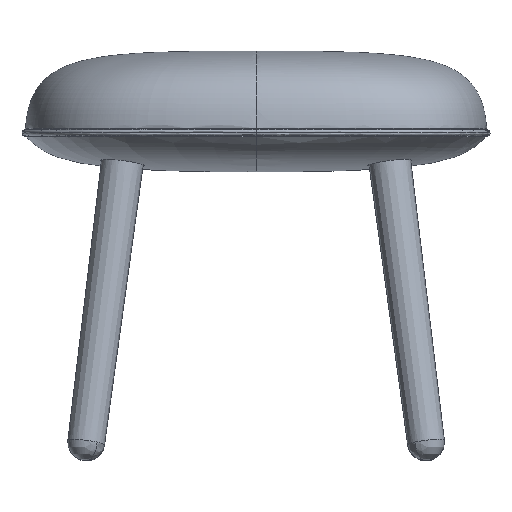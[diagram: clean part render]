
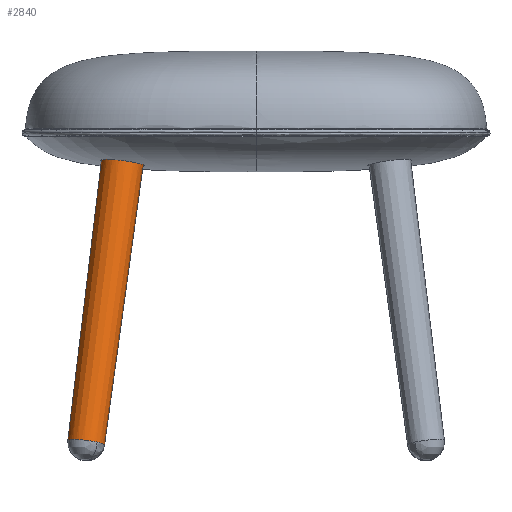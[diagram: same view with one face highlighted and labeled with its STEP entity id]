
A CAD part, top view. The second image highlights one B-rep face of the part: STEP entity #2840.
In plain terms, the highlighted conical face has half-angle 0.5 degrees and reference radius 20.031 mm.
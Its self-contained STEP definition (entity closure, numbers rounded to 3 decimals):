
#450 = CARTESIAN_POINT ( 'NONE',  ( -146.244, 15.943, 200.067 ) ) ;
#627 = CARTESIAN_POINT ( 'NONE',  ( -146.895, 16.167, 201.219 ) ) ;
#1484 = CARTESIAN_POINT ( 'NONE',  ( -168.431, 19.684, 208.014 ) ) ;
#1574 = CARTESIAN_POINT ( 'NONE',  ( -151.717, 17.394, 206.283 ) ) ;
#1666 = CARTESIAN_POINT ( 'NONE',  ( -162.637, 19.126, 209.313 ) ) ;
#1715 = EDGE_CURVE ( 'NONE', #11498, #9452, #17852, .T. ) ;
#2461 = CARTESIAN_POINT ( 'NONE',  ( -146.369, 15.988, 200.302 ) ) ;
#2840 = ADVANCED_FACE ( 'NONE', ( #8111 ), #13983, .T. ) ;
#3503 = CARTESIAN_POINT ( 'NONE',  ( -179.314, 19.231, 193.489 ) ) ;
#3595 = CARTESIAN_POINT ( 'NONE',  ( -160.75, 18.893, 209.323 ) ) ;
#3656 = CARTESIAN_POINT ( 'NONE',  ( -127.189, 285.289, 157.189 ) ) ;
#3684 = CARTESIAN_POINT ( 'NONE',  ( -170.095, 19.782, 207.14 ) ) ;
#3773 = CARTESIAN_POINT ( 'NONE',  ( -160.58, 18.87, 209.314 ) ) ;
#4030 = EDGE_CURVE ( 'NONE', #5973, #8949, #18326, .T. ) ;
#4629 = ORIENTED_EDGE ( 'NONE', *, *, #5787, .T. ) ;
#4742 = CARTESIAN_POINT ( 'NONE',  ( -147.083, 16.227, 201.517 ) ) ;
#5518 = DIRECTION ( 'NONE',  ( 0.136, 0.983, -0.127 ) ) ;
#5648 = CARTESIAN_POINT ( 'NONE',  ( -151.717, 17.394, 206.283 ) ) ;
#5696 = ORIENTED_EDGE ( 'NONE', *, *, #11314, .T. ) ;
#5767 = CARTESIAN_POINT ( 'NONE',  ( -157.852, 18.495, 209.017 ) ) ;
#5781 = CARTESIAN_POINT ( 'NONE',  ( -107.322, 282.726, 157.189 ) ) ;
#5787 = EDGE_CURVE ( 'NONE', #11214, #9452, #16234, .T. ) ;
#5810 = CARTESIAN_POINT ( 'NONE',  ( -107.322, 282.726, 157.189 ) ) ;
#5857 = CARTESIAN_POINT ( 'NONE',  ( -170.346, 19.796, 207.001 ) ) ;
#5973 = VERTEX_POINT ( 'NONE', #5648 ) ;
#6423 = CARTESIAN_POINT ( 'NONE',  ( -147.055, 287.852, 157.189 ) ) ;
#7466 = DIRECTION ( 'NONE',  ( -0.992, 0.128, 0. ) ) ;
#7591 = CARTESIAN_POINT ( 'NONE',  ( -163.855, 19.264, 209.21 ) ) ;
#7684 = CARTESIAN_POINT ( 'NONE',  ( -177.426, 19.77, 199.709 ) ) ;
#7774 = CARTESIAN_POINT ( 'NONE',  ( -155.593, 18.126, 208.308 ) ) ;
#7951 = CARTESIAN_POINT ( 'NONE',  ( -159.281, 18.7, 209.241 ) ) ;
#8111 = FACE_OUTER_BOUND ( 'NONE', #8365, .T. ) ;
#8365 = EDGE_LOOP ( 'NONE', ( #13060, #5696, #4629, #17073, #26586 ) ) ;
#8885 = EDGE_CURVE ( 'NONE', #11498, #5973, #23242, .T. ) ;
#8949 = VERTEX_POINT ( 'NONE', #15845 ) ;
#9452 = VERTEX_POINT ( 'NONE', #6423 ) ;
#9779 = CARTESIAN_POINT ( 'NONE',  ( -162.227, 19.077, 209.334 ) ) ;
#9867 = CARTESIAN_POINT ( 'NONE',  ( -172.962, 19.897, 205.197 ) ) ;
#9960 = CARTESIAN_POINT ( 'NONE',  ( -179.34, 19.029, 191.836 ) ) ;
#9973 = DIRECTION ( 'NONE',  ( -0.992, 0.128, 0. ) ) ;
#10834 = CARTESIAN_POINT ( 'NONE',  ( -146.494, 16.032, 200.535 ) ) ;
#11008 = CARTESIAN_POINT ( 'NONE',  ( -146.625, 16.077, 200.764 ) ) ;
#11214 = VERTEX_POINT ( 'NONE', #5810 ) ;
#11314 = EDGE_CURVE ( 'NONE', #8949, #11214, #12179, .T. ) ;
#11378 = AXIS2_PLACEMENT_3D ( 'NONE', #3656, #26416, #7466 ) ;
#11498 = VERTEX_POINT ( 'NONE', #14135 ) ;
#12034 = CARTESIAN_POINT ( 'NONE',  ( -160.932, 18.916, 209.331 ) ) ;
#12179 = LINE ( 'NONE', #5781, #25804 ) ;
#12557 = CARTESIAN_POINT ( 'NONE',  ( -151.717, 17.394, 206.283 ) ) ;
#13060 = ORIENTED_EDGE ( 'NONE', *, *, #4030, .T. ) ;
#13086 = CARTESIAN_POINT ( 'NONE',  ( -146.286, 15.958, 200.147 ) ) ;
#13854 = CARTESIAN_POINT ( 'NONE',  ( -175.716, 19.892, 202.401 ) ) ;
#13948 = CARTESIAN_POINT ( 'NONE',  ( -169.842, 19.767, 207.276 ) ) ;
#13983 = CONICAL_SURFACE ( 'NONE', #22998, 20.031, 0.009 ) ;
#14034 = CARTESIAN_POINT ( 'NONE',  ( -161.607, 19.002, 209.343 ) ) ;
#14121 = CARTESIAN_POINT ( 'NONE',  ( -178.108, 19.671, 198.234 ) ) ;
#14135 = CARTESIAN_POINT ( 'NONE',  ( -179.34, 19.029, 191.836 ) ) ;
#14429 = DIRECTION ( 'NONE',  ( 0.118, 0.985, -0.127 ) ) ;
#14824 = CARTESIAN_POINT ( 'NONE',  ( -147.677, 16.409, 202.391 ) ) ;
#15845 = CARTESIAN_POINT ( 'NONE',  ( -144.309, 14.679, 191.815 ) ) ;
#15932 = CARTESIAN_POINT ( 'NONE',  ( -152.485, 17.555, 206.814 ) ) ;
#16198 = CARTESIAN_POINT ( 'NONE',  ( -171.407, 19.846, 206.347 ) ) ;
#16234 = CIRCLE ( 'NONE', #11378, 20.031 ) ;
#16299 = CARTESIAN_POINT ( 'NONE',  ( -127.189, 285.289, 157.189 ) ) ;
#16907 = CARTESIAN_POINT ( 'NONE',  ( -144.309, 14.679, 191.815 ) ) ;
#17073 = ORIENTED_EDGE ( 'NONE', *, *, #1715, .F. ) ;
#17080 = CARTESIAN_POINT ( 'NONE',  ( -149.499, 16.902, 204.538 ) ) ;
#17852 = LINE ( 'NONE', #20676, #24346 ) ;
#18015 = CARTESIAN_POINT ( 'NONE',  ( -160.593, 18.872, 209.315 ) ) ;
#18281 = CARTESIAN_POINT ( 'NONE',  ( -171.085, 19.832, 206.557 ) ) ;
#18326 = B_SPLINE_CURVE_WITH_KNOTS ( 'NONE', 3,
 ( #12557, #26886, #17080, #19166, #14824, #4742, #627, #11008, #10834, #2461, #13086, #450, #21340, #19074, #25323, #19346, #16907 ),
 .UNSPECIFIED., .F., .F.,
 ( 4, 2, 2, 2, 1, 2, 2, 2, 4 ),
 ( 0., 0.25, 0.375, 0.438, 0.469, 0.484, 0.5, 0.75, 1. ),
 .UNSPECIFIED. ) ;
#19074 = CARTESIAN_POINT ( 'NONE',  ( -145.088, 15.474, 197.441 ) ) ;
#19166 = CARTESIAN_POINT ( 'NONE',  ( -148.108, 16.532, 202.949 ) ) ;
#19346 = CARTESIAN_POINT ( 'NONE',  ( -144.287, 14.855, 193.259 ) ) ;
#20018 = CARTESIAN_POINT ( 'NONE',  ( -169.928, 19.772, 207.231 ) ) ;
#20107 = CARTESIAN_POINT ( 'NONE',  ( -170.593, 19.808, 206.856 ) ) ;
#20196 = CARTESIAN_POINT ( 'NONE',  ( -179.052, 19.402, 195.124 ) ) ;
#20287 = CARTESIAN_POINT ( 'NONE',  ( -174.69, 19.915, 203.618 ) ) ;
#20376 = CARTESIAN_POINT ( 'NONE',  ( -160.659, 18.881, 209.319 ) ) ;
#20676 = CARTESIAN_POINT ( 'NONE',  ( -147.055, 287.852, 157.189 ) ) ;
#21340 = CARTESIAN_POINT ( 'NONE',  ( -145.576, 15.698, 198.76 ) ) ;
#22369 = CARTESIAN_POINT ( 'NONE',  ( -161.296, 18.963, 209.342 ) ) ;
#22456 = CARTESIAN_POINT ( 'NONE',  ( -154.821, 17.994, 208.009 ) ) ;
#22998 = AXIS2_PLACEMENT_3D ( 'NONE', #16299, #26639, #9973 ) ;
#23242 = B_SPLINE_CURVE_WITH_KNOTS ( 'NONE', 3,
 ( #9960, #3503, #20196, #14121, #7684, #13854, #20287, #9867, #24446, #16198, #18281, #20107, #5857, #3684, #20018, #13948, #1484, #26447, #24087, #7591, #1666, #9779, #14034, #22369, #12034, #3595, #20376, #26539, #18015, #3773, #26181, #7951, #5767, #7774, #22456, #24177, #15932, #1574 ),
 .UNSPECIFIED., .F., .F.,
 ( 4, 2, 2, 2, 2, 2, 1, 2, 2, 2, 2, 2, 1, 1, 1, 1, 1, 2, 2, 2, 2, 4 ),
 ( 0., 0.125, 0.25, 0.375, 0.437, 0.469, 0.484, 0.492, 0.5, 0.625, 0.687, 0.719, 0.734, 0.742, 0.746, 0.748, 0.749, 0.75, 0.75, 0.875, 0.937, 1. ),
 .UNSPECIFIED. ) ;
#24087 = CARTESIAN_POINT ( 'NONE',  ( -164.652, 19.348, 209.085 ) ) ;
#24177 = CARTESIAN_POINT ( 'NONE',  ( -153.267, 17.708, 207.262 ) ) ;
#24346 = VECTOR ( 'NONE', #14429, 1000. ) ;
#24446 = CARTESIAN_POINT ( 'NONE',  ( -172.355, 19.882, 205.683 ) ) ;
#25323 = CARTESIAN_POINT ( 'NONE',  ( -144.444, 15.052, 194.69 ) ) ;
#25804 = VECTOR ( 'NONE', #5518, 1000. ) ;
#26181 = CARTESIAN_POINT ( 'NONE',  ( -160.572, 18.869, 209.314 ) ) ;
#26416 = DIRECTION ( 'NONE',  ( -0.127, -0.984, 0.127 ) ) ;
#26447 = CARTESIAN_POINT ( 'NONE',  ( -166.975, 19.571, 208.562 ) ) ;
#26539 = CARTESIAN_POINT ( 'NONE',  ( -160.613, 18.875, 209.316 ) ) ;
#26586 = ORIENTED_EDGE ( 'NONE', *, *, #8885, .T. ) ;
#26639 = DIRECTION ( 'NONE',  ( 0.127, 0.984, -0.127 ) ) ;
#26886 = CARTESIAN_POINT ( 'NONE',  ( -150.558, 17.151, 205.482 ) ) ;
